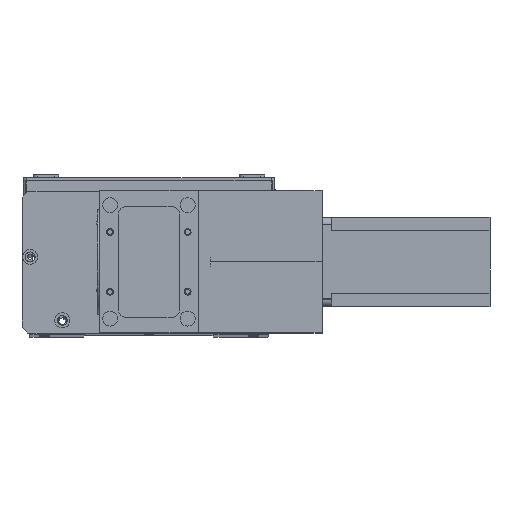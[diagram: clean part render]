
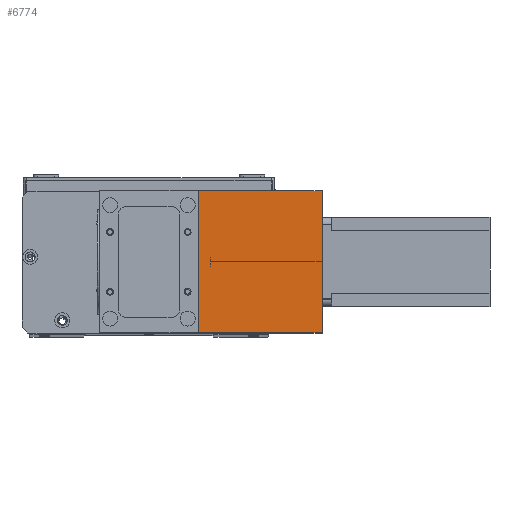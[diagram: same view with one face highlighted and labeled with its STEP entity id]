
A CAD part, top view. The second image highlights one B-rep face of the part: STEP entity #6774.
In plain terms, the highlighted planar face has unit normal (0, 0, 1) as drawn and (1, 0, 0) by its records, which use the part's own axes.
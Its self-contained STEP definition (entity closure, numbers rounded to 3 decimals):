
#1199 = VECTOR ( 'NONE', #23321, 1000. ) ;
#1717 = FACE_OUTER_BOUND ( 'NONE', #26198, .T. ) ;
#4643 = LINE ( 'NONE', #12005, #22131 ) ;
#5070 = AXIS2_PLACEMENT_3D ( 'NONE', #18480, #16870, #16945 ) ;
#6078 = LINE ( 'NONE', #19846, #11303 ) ;
#6110 = LINE ( 'NONE', #25985, #22845 ) ;
#6774 = ADVANCED_FACE ( 'NONE', ( #1717 ), #18248, .F. ) ;
#8577 = ORIENTED_EDGE ( 'NONE', *, *, #13474, .T. ) ;
#11303 = VECTOR ( 'NONE', #19677, 1000. ) ;
#11953 = DIRECTION ( 'NONE',  ( 0., 0., -1. ) ) ;
#12005 = CARTESIAN_POINT ( 'NONE',  ( 82., 0., 83. ) ) ;
#12285 = ORIENTED_EDGE ( 'NONE', *, *, #12442, .F. ) ;
#12442 = EDGE_CURVE ( 'NONE', #13158, #17501, #6110, .T. ) ;
#12595 = EDGE_CURVE ( 'NONE', #23734, #13158, #13060, .T. ) ;
#12895 = EDGE_CURVE ( 'NONE', #17668, #17501, #6078, .T. ) ;
#13060 = LINE ( 'NONE', #23603, #1199 ) ;
#13158 = VERTEX_POINT ( 'NONE', #16252 ) ;
#13474 = EDGE_CURVE ( 'NONE', #23734, #17668, #4643, .T. ) ;
#16252 = CARTESIAN_POINT ( 'NONE',  ( 82., 95., 83. ) ) ;
#16423 = CARTESIAN_POINT ( 'NONE',  ( 82., 95., 0. ) ) ;
#16870 = DIRECTION ( 'NONE',  ( -1., 0., 0. ) ) ;
#16945 = DIRECTION ( 'NONE',  ( 0., 0., 1. ) ) ;
#17501 = VERTEX_POINT ( 'NONE', #16423 ) ;
#17668 = VERTEX_POINT ( 'NONE', #23410 ) ;
#18248 = PLANE ( 'NONE',  #5070 ) ;
#18480 = CARTESIAN_POINT ( 'NONE',  ( 82., 0., 83. ) ) ;
#19677 = DIRECTION ( 'NONE',  ( 0., 1., 0. ) ) ;
#19846 = CARTESIAN_POINT ( 'NONE',  ( 82., 0., 0. ) ) ;
#22131 = VECTOR ( 'NONE', #11953, 1000. ) ;
#22845 = VECTOR ( 'NONE', #25929, 1000. ) ;
#23321 = DIRECTION ( 'NONE',  ( 0., 1., 0. ) ) ;
#23410 = CARTESIAN_POINT ( 'NONE',  ( 82., 0., 0. ) ) ;
#23603 = CARTESIAN_POINT ( 'NONE',  ( 82., 0., 83. ) ) ;
#23734 = VERTEX_POINT ( 'NONE', #24086 ) ;
#24086 = CARTESIAN_POINT ( 'NONE',  ( 82., 0., 83. ) ) ;
#24606 = ORIENTED_EDGE ( 'NONE', *, *, #12895, .T. ) ;
#25929 = DIRECTION ( 'NONE',  ( 0., 0., -1. ) ) ;
#25985 = CARTESIAN_POINT ( 'NONE',  ( 82., 95., 83. ) ) ;
#26198 = EDGE_LOOP ( 'NONE', ( #24606, #12285, #27077, #8577 ) ) ;
#27077 = ORIENTED_EDGE ( 'NONE', *, *, #12595, .F. ) ;
